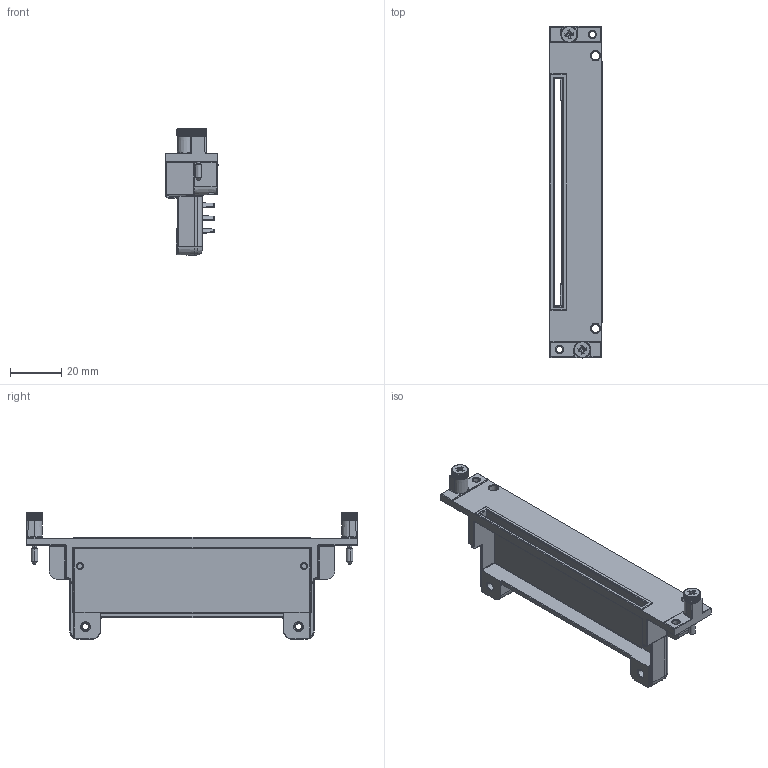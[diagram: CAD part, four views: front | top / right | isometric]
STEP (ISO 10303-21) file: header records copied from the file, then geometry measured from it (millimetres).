
FILE_DESCRIPTION((''),'2;1');
FILE_NAME('CU_PXI-795XR','2012-04-23T',('jjorden'),(''),'PRO/ENGINEER BY PARAMETRIC TECHNOLOGY CORPORATION, 2010230','PRO/ENGINEER BY PARAMETRIC TECHNOLOGY CORPORATION, 2010230','');
FILE_SCHEMA(('CONFIG_CONTROL_DESIGN'));
Length unit declared in the file: inch
Products named in the file (1): CU_PXI-795XR
Bounding box: 20.24 x 129.02 x 49.07 mm (x, y, z)
Volume: 28445.9 mm3; surface area: 23126.2 mm2
Topology: 1 solids, 1 shells, 908 faces, 2285 edges, 1378 vertices
Faces by surface type: plane 410, cylinder 244, bspline 102, cone 80, sphere 30, torus 30, extrusion 12
Entity records: 35421 total; most frequent: CARTESIAN_POINT 15539, ORIENTED_EDGE 4554, DIRECTION 3457, EDGE_CURVE 2277, VERTEX_POINT 1378, AXIS2_PLACEMENT_3D 1204, VECTOR 1049, LINE 1037
